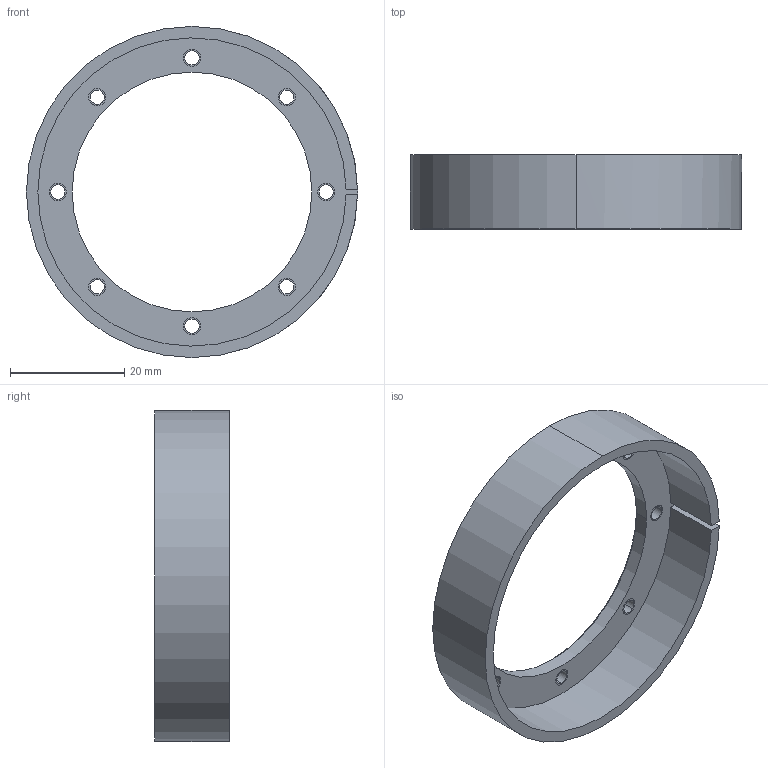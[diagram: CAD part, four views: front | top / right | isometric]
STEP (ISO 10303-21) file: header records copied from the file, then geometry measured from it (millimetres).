
FILE_DESCRIPTION((''),'2;1');
FILE_NAME('ART4OPTODISK_V-2','2022-08-24T09:39:34',('domen.bizjak'),('Audax d.o.o.'),'CREO PARAMETRIC BY PTC INC, 2021184','CREO PARAMETRIC BY PTC INC, 2021184','');
FILE_SCHEMA(('AP242_MANAGED_MODEL_BASED_3D_ENGINEERING_MIM_LF { 1 0 10303 442 1 1 4 }'));
Length unit declared in the file: millimetre
Products named in the file (1): ART4OPTODISK_V-2
Bounding box: 58 x 13 x 58 mm (x, y, z)
Volume: 7134.1 mm3; surface area: 7292.2 mm2
Topology: 1 solids, 9 shells, 44 faces, 139 edges, 108 vertices
Faces by surface type: cylinder 37, plane 5, cone 2
Entity records: 3529 total; most frequent: DIRECTION 349, COLOUR_RGB 321, CARTESIAN_POINT 292, ORIENTED_EDGE 216, PRESENTATION_STYLE_ASSIGNMENT 163, STYLED_ITEM 153, AXIS2_PLACEMENT_3D 144, CURVE_STYLE 140
